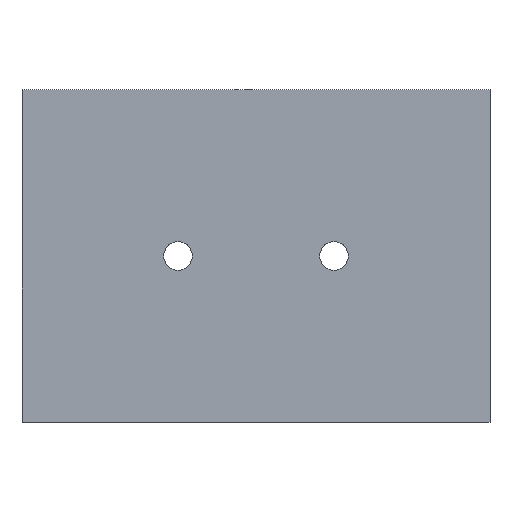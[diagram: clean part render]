
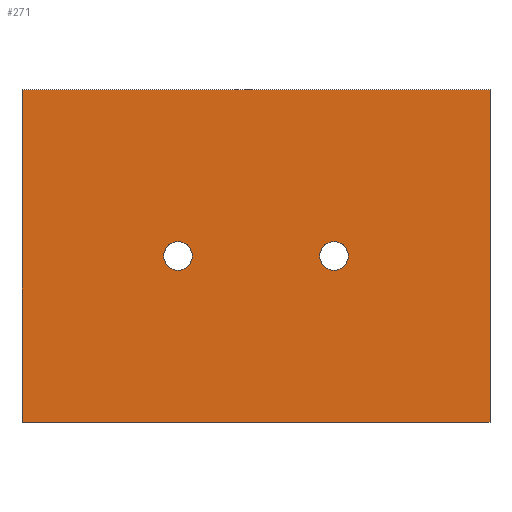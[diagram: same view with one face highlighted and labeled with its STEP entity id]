
A CAD part, top view. The second image highlights one B-rep face of the part: STEP entity #271.
In plain terms, the highlighted planar face has unit normal (0, 0, 1).
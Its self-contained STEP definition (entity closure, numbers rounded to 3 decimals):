
#1 = DIRECTION ( 'NONE',  ( 0., 0., 1. ) ) ;
#5 = CARTESIAN_POINT ( 'NONE',  ( -90., -32., 17.5 ) ) ;
#8 = DIRECTION ( 'NONE',  ( -1., 0., 0. ) ) ;
#11 = VERTEX_POINT ( 'NONE', #309 ) ;
#13 = CARTESIAN_POINT ( 'NONE',  ( -90., 32., 17.5 ) ) ;
#23 = DIRECTION ( 'NONE',  ( 0., 0., 1. ) ) ;
#25 = CIRCLE ( 'NONE', #34, 2.75 ) ;
#30 = DIRECTION ( 'NONE',  ( 1., 0., 0. ) ) ;
#34 = AXIS2_PLACEMENT_3D ( 'NONE', #230, #1, #209 ) ;
#36 = CARTESIAN_POINT ( 'NONE',  ( -62.75, 0., 17.5 ) ) ;
#40 = CARTESIAN_POINT ( 'NONE',  ( 0., 32., 17.5 ) ) ;
#44 = ORIENTED_EDGE ( 'NONE', *, *, #92, .F. ) ;
#53 = CARTESIAN_POINT ( 'NONE',  ( -90., -32., 17.5 ) ) ;
#58 = CARTESIAN_POINT ( 'NONE',  ( -30., 0., 17.5 ) ) ;
#59 = ORIENTED_EDGE ( 'NONE', *, *, #298, .F. ) ;
#60 = VECTOR ( 'NONE', #176, 1000. ) ;
#67 = PLANE ( 'NONE',  #269 ) ;
#70 = CARTESIAN_POINT ( 'NONE',  ( 0., 32., 17.5 ) ) ;
#85 = LINE ( 'NONE', #5, #108 ) ;
#89 = VECTOR ( 'NONE', #274, 1000. ) ;
#92 = EDGE_CURVE ( 'NONE', #329, #345, #170, .T. ) ;
#95 = AXIS2_PLACEMENT_3D ( 'NONE', #265, #195, #8 ) ;
#96 = CIRCLE ( 'NONE', #117, 2.75 ) ;
#100 = DIRECTION ( 'NONE',  ( 0., 1., 0. ) ) ;
#108 = VECTOR ( 'NONE', #30, 1000. ) ;
#115 = DIRECTION ( 'NONE',  ( -1., 0., 0. ) ) ;
#117 = AXIS2_PLACEMENT_3D ( 'NONE', #58, #23, #168 ) ;
#119 = CARTESIAN_POINT ( 'NONE',  ( -32.75, 0., 17.5 ) ) ;
#126 = CIRCLE ( 'NONE', #95, 2.75 ) ;
#134 = ORIENTED_EDGE ( 'NONE', *, *, #262, .T. ) ;
#143 = CARTESIAN_POINT ( 'NONE',  ( -90., 32., 17.5 ) ) ;
#149 = ORIENTED_EDGE ( 'NONE', *, *, #213, .F. ) ;
#153 = FACE_BOUND ( 'NONE', #202, .T. ) ;
#164 = VECTOR ( 'NONE', #100, 1000. ) ;
#165 = EDGE_CURVE ( 'NONE', #297, #11, #85, .T. ) ;
#167 = ORIENTED_EDGE ( 'NONE', *, *, #218, .T. ) ;
#168 = DIRECTION ( 'NONE',  ( -1., 0., 0. ) ) ;
#170 = CIRCLE ( 'NONE', #242, 2.75 ) ;
#174 = EDGE_LOOP ( 'NONE', ( #167, #312, #134, #207 ) ) ;
#176 = DIRECTION ( 'NONE',  ( -1., 0., 0. ) ) ;
#179 = DIRECTION ( 'NONE',  ( 0., 0., 1. ) ) ;
#190 = LINE ( 'NONE', #258, #164 ) ;
#192 = CARTESIAN_POINT ( 'NONE',  ( -27.25, 0., 17.5 ) ) ;
#195 = DIRECTION ( 'NONE',  ( 0., 0., 1. ) ) ;
#196 = ORIENTED_EDGE ( 'NONE', *, *, #232, .F. ) ;
#202 = EDGE_LOOP ( 'NONE', ( #59, #44 ) ) ;
#204 = VERTEX_POINT ( 'NONE', #192 ) ;
#205 = FACE_BOUND ( 'NONE', #245, .T. ) ;
#207 = ORIENTED_EDGE ( 'NONE', *, *, #254, .T. ) ;
#209 = DIRECTION ( 'NONE',  ( -1., 0., 0. ) ) ;
#213 = EDGE_CURVE ( 'NONE', #339, #204, #25, .T. ) ;
#218 = EDGE_CURVE ( 'NONE', #266, #297, #336, .T. ) ;
#230 = CARTESIAN_POINT ( 'NONE',  ( -30., 0., 17.5 ) ) ;
#232 = EDGE_CURVE ( 'NONE', #204, #339, #96, .T. ) ;
#235 = CARTESIAN_POINT ( 'NONE',  ( -60., 0., 17.5 ) ) ;
#242 = AXIS2_PLACEMENT_3D ( 'NONE', #235, #179, #115 ) ;
#245 = EDGE_LOOP ( 'NONE', ( #196, #149 ) ) ;
#254 = EDGE_CURVE ( 'NONE', #350, #266, #321, .T. ) ;
#258 = CARTESIAN_POINT ( 'NONE',  ( 0., -32., 17.5 ) ) ;
#262 = EDGE_CURVE ( 'NONE', #11, #350, #190, .T. ) ;
#265 = CARTESIAN_POINT ( 'NONE',  ( -60., 0., 17.5 ) ) ;
#266 = VERTEX_POINT ( 'NONE', #143 ) ;
#269 = AXIS2_PLACEMENT_3D ( 'NONE', #342, #276, #279 ) ;
#271 = ADVANCED_FACE ( 'NONE', ( #153, #205, #319 ), #67, .T. ) ;
#274 = DIRECTION ( 'NONE',  ( 0., -1., 0. ) ) ;
#276 = DIRECTION ( 'NONE',  ( 0., 0., 1. ) ) ;
#279 = DIRECTION ( 'NONE',  ( 1., 0., 0. ) ) ;
#293 = CARTESIAN_POINT ( 'NONE',  ( -57.25, 0., 17.5 ) ) ;
#297 = VERTEX_POINT ( 'NONE', #53 ) ;
#298 = EDGE_CURVE ( 'NONE', #345, #329, #126, .T. ) ;
#309 = CARTESIAN_POINT ( 'NONE',  ( 0., -32., 17.5 ) ) ;
#312 = ORIENTED_EDGE ( 'NONE', *, *, #165, .T. ) ;
#319 = FACE_OUTER_BOUND ( 'NONE', #174, .T. ) ;
#321 = LINE ( 'NONE', #70, #60 ) ;
#329 = VERTEX_POINT ( 'NONE', #36 ) ;
#336 = LINE ( 'NONE', #13, #89 ) ;
#339 = VERTEX_POINT ( 'NONE', #119 ) ;
#342 = CARTESIAN_POINT ( 'NONE',  ( 0., 0., 17.5 ) ) ;
#345 = VERTEX_POINT ( 'NONE', #293 ) ;
#350 = VERTEX_POINT ( 'NONE', #40 ) ;
